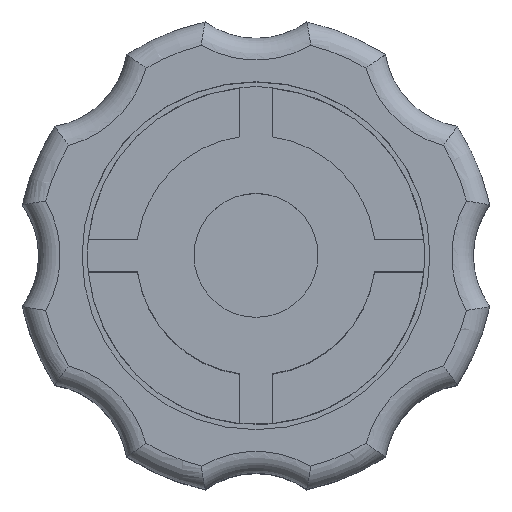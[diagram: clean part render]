
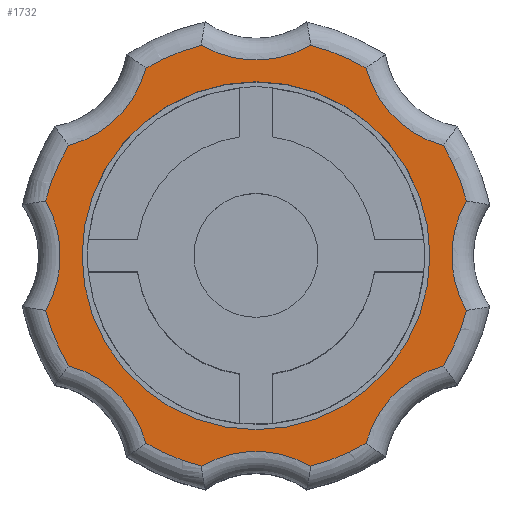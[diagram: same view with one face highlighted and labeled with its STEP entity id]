
A CAD part, top view. The second image highlights one B-rep face of the part: STEP entity #1732.
In plain terms, the highlighted planar face has unit normal (0, 0, 1).
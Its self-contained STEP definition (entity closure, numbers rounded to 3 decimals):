
#41=FACE_BOUND('',#507,.T.);
#62=PLANE('',#1911);
#394=FACE_OUTER_BOUND('',#506,.T.);
#506=EDGE_LOOP('',(#1358,#1359,#1360,#1361,#1362,#1363,#1364,#1365,#1366,
#1367,#1368,#1369,#1370,#1371,#1372,#1373));
#507=EDGE_LOOP('',(#1374));
#661=CIRCLE('',#1864,10.);
#662=CIRCLE('',#1866,5.);
#663=CIRCLE('',#1868,10.);
#664=CIRCLE('',#1870,5.);
#665=CIRCLE('',#1872,10.);
#667=CIRCLE('',#1875,10.);
#669=CIRCLE('',#1878,5.);
#671=CIRCLE('',#1881,10.);
#673=CIRCLE('',#1884,5.);
#675=CIRCLE('',#1887,10.);
#677=CIRCLE('',#1890,5.);
#678=CIRCLE('',#1892,5.);
#680=CIRCLE('',#1895,10.);
#682=CIRCLE('',#1898,5.);
#683=CIRCLE('',#1900,10.);
#684=CIRCLE('',#1902,5.);
#685=CIRCLE('',#1912,8.);
#777=VERTEX_POINT('',#2936);
#778=VERTEX_POINT('',#2951);
#779=VERTEX_POINT('',#2968);
#780=VERTEX_POINT('',#2985);
#781=VERTEX_POINT('',#3002);
#782=VERTEX_POINT('',#3019);
#784=VERTEX_POINT('',#3038);
#785=VERTEX_POINT('',#3053);
#787=VERTEX_POINT('',#3072);
#789=VERTEX_POINT('',#3091);
#791=VERTEX_POINT('',#3110);
#793=VERTEX_POINT('',#3129);
#795=VERTEX_POINT('',#3148);
#797=VERTEX_POINT('',#3169);
#798=VERTEX_POINT('',#3187);
#799=VERTEX_POINT('',#3204);
#800=VERTEX_POINT('',#3238);
#965=EDGE_CURVE('',#777,#778,#661,.T.);
#968=EDGE_CURVE('',#779,#777,#662,.T.);
#970=EDGE_CURVE('',#780,#779,#663,.T.);
#972=EDGE_CURVE('',#781,#780,#664,.T.);
#974=EDGE_CURVE('',#782,#781,#665,.T.);
#977=EDGE_CURVE('',#784,#785,#667,.T.);
#981=EDGE_CURVE('',#787,#784,#669,.T.);
#984=EDGE_CURVE('',#789,#787,#671,.T.);
#987=EDGE_CURVE('',#791,#789,#673,.T.);
#990=EDGE_CURVE('',#793,#791,#675,.T.);
#993=EDGE_CURVE('',#795,#793,#677,.T.);
#994=EDGE_CURVE('',#785,#782,#678,.T.);
#997=EDGE_CURVE('',#797,#795,#680,.T.);
#1000=EDGE_CURVE('',#798,#797,#682,.T.);
#1002=EDGE_CURVE('',#799,#798,#683,.T.);
#1003=EDGE_CURVE('',#778,#799,#684,.T.);
#1011=EDGE_CURVE('',#800,#800,#685,.T.);
#1358=ORIENTED_EDGE('',*,*,#977,.F.);
#1359=ORIENTED_EDGE('',*,*,#981,.F.);
#1360=ORIENTED_EDGE('',*,*,#984,.F.);
#1361=ORIENTED_EDGE('',*,*,#987,.F.);
#1362=ORIENTED_EDGE('',*,*,#990,.F.);
#1363=ORIENTED_EDGE('',*,*,#993,.F.);
#1364=ORIENTED_EDGE('',*,*,#997,.F.);
#1365=ORIENTED_EDGE('',*,*,#1000,.F.);
#1366=ORIENTED_EDGE('',*,*,#1002,.F.);
#1367=ORIENTED_EDGE('',*,*,#1003,.F.);
#1368=ORIENTED_EDGE('',*,*,#965,.F.);
#1369=ORIENTED_EDGE('',*,*,#968,.F.);
#1370=ORIENTED_EDGE('',*,*,#970,.F.);
#1371=ORIENTED_EDGE('',*,*,#972,.F.);
#1372=ORIENTED_EDGE('',*,*,#974,.F.);
#1373=ORIENTED_EDGE('',*,*,#994,.F.);
#1374=ORIENTED_EDGE('',*,*,#1011,.T.);
#1732=ADVANCED_FACE('',(#394,#41),#62,.F.);
#1864=AXIS2_PLACEMENT_3D('',#2952,#2172,#2173);
#1866=AXIS2_PLACEMENT_3D('',#2983,#2176,#2177);
#1868=AXIS2_PLACEMENT_3D('',#3000,#2180,#2181);
#1870=AXIS2_PLACEMENT_3D('',#3017,#2184,#2185);
#1872=AXIS2_PLACEMENT_3D('',#3034,#2188,#2189);
#1875=AXIS2_PLACEMENT_3D('',#3054,#2194,#2195);
#1878=AXIS2_PLACEMENT_3D('',#3087,#2200,#2201);
#1881=AXIS2_PLACEMENT_3D('',#3106,#2206,#2207);
#1884=AXIS2_PLACEMENT_3D('',#3125,#2212,#2213);
#1887=AXIS2_PLACEMENT_3D('',#3144,#2218,#2219);
#1890=AXIS2_PLACEMENT_3D('',#3163,#2224,#2225);
#1892=AXIS2_PLACEMENT_3D('',#3165,#2228,#2229);
#1895=AXIS2_PLACEMENT_3D('',#3184,#2234,#2235);
#1898=AXIS2_PLACEMENT_3D('',#3202,#2240,#2241);
#1900=AXIS2_PLACEMENT_3D('',#3219,#2244,#2245);
#1902=AXIS2_PLACEMENT_3D('',#3221,#2248,#2249);
#1911=AXIS2_PLACEMENT_3D('',#3237,#2273,#2274);
#1912=AXIS2_PLACEMENT_3D('',#3239,#2275,#2276);
#2172=DIRECTION('center_axis',(0.,0.,-1.));
#2173=DIRECTION('ref_axis',(0.383,0.924,0.));
#2176=DIRECTION('center_axis',(0.,0.,1.));
#2177=DIRECTION('ref_axis',(0.,-1.,0.));
#2180=DIRECTION('center_axis',(0.,0.,-1.));
#2181=DIRECTION('ref_axis',(-0.383,0.924,0.));
#2184=DIRECTION('center_axis',(0.,0.,1.));
#2185=DIRECTION('ref_axis',(0.707,-0.707,0.));
#2188=DIRECTION('center_axis',(0.,0.,-1.));
#2189=DIRECTION('ref_axis',(-0.924,0.383,0.));
#2194=DIRECTION('center_axis',(0.,0.,-1.));
#2195=DIRECTION('ref_axis',(-0.924,-0.383,0.));
#2200=DIRECTION('center_axis',(0.,0.,1.));
#2201=DIRECTION('ref_axis',(0.707,0.707,0.));
#2206=DIRECTION('center_axis',(0.,0.,-1.));
#2207=DIRECTION('ref_axis',(-0.383,-0.924,0.));
#2212=DIRECTION('center_axis',(0.,0.,1.));
#2213=DIRECTION('ref_axis',(0.,1.,0.));
#2218=DIRECTION('center_axis',(0.,0.,-1.));
#2219=DIRECTION('ref_axis',(0.383,-0.924,0.));
#2224=DIRECTION('center_axis',(0.,0.,1.));
#2225=DIRECTION('ref_axis',(-0.707,0.707,0.));
#2228=DIRECTION('center_axis',(0.,0.,1.));
#2229=DIRECTION('ref_axis',(1.,0.,0.));
#2234=DIRECTION('center_axis',(0.,0.,-1.));
#2235=DIRECTION('ref_axis',(0.924,-0.383,0.));
#2240=DIRECTION('center_axis',(0.,0.,1.));
#2241=DIRECTION('ref_axis',(-1.,0.,0.));
#2244=DIRECTION('center_axis',(0.,0.,-1.));
#2245=DIRECTION('ref_axis',(0.924,0.383,0.));
#2248=DIRECTION('center_axis',(0.,0.,1.));
#2249=DIRECTION('ref_axis',(-0.707,-0.707,0.));
#2273=DIRECTION('center_axis',(0.,0.,-1.));
#2274=DIRECTION('ref_axis',(-1.,0.,0.));
#2275=DIRECTION('center_axis',(0.,0.,-1.));
#2276=DIRECTION('ref_axis',(-1.,0.,0.));
#2936=CARTESIAN_POINT('',(2.515,9.679,15.));
#2951=CARTESIAN_POINT('',(5.065,8.622,15.));
#2952=CARTESIAN_POINT('Origin',(0.,0.,15.));
#2968=CARTESIAN_POINT('',(-2.515,9.679,15.));
#2983=CARTESIAN_POINT('Origin',(0.,14.,15.));
#2985=CARTESIAN_POINT('',(-5.065,8.622,15.));
#3000=CARTESIAN_POINT('Origin',(0.,0.,15.));
#3002=CARTESIAN_POINT('',(-8.622,5.065,15.));
#3017=CARTESIAN_POINT('Origin',(-9.899,9.899,15.));
#3019=CARTESIAN_POINT('',(-9.679,2.515,15.));
#3034=CARTESIAN_POINT('Origin',(0.,0.,15.));
#3038=CARTESIAN_POINT('',(-8.622,-5.065,15.));
#3053=CARTESIAN_POINT('',(-9.679,-2.515,15.));
#3054=CARTESIAN_POINT('Origin',(0.,0.,15.));
#3072=CARTESIAN_POINT('',(-5.065,-8.622,15.));
#3087=CARTESIAN_POINT('Origin',(-9.899,-9.899,15.));
#3091=CARTESIAN_POINT('',(-2.515,-9.679,15.));
#3106=CARTESIAN_POINT('Origin',(0.,0.,15.));
#3110=CARTESIAN_POINT('',(2.515,-9.679,15.));
#3125=CARTESIAN_POINT('Origin',(0.,-14.,15.));
#3129=CARTESIAN_POINT('',(5.065,-8.622,15.));
#3144=CARTESIAN_POINT('Origin',(0.,0.,15.));
#3148=CARTESIAN_POINT('',(8.622,-5.065,15.));
#3163=CARTESIAN_POINT('Origin',(9.899,-9.899,15.));
#3165=CARTESIAN_POINT('Origin',(-14.,0.,15.));
#3169=CARTESIAN_POINT('',(9.679,-2.515,15.));
#3184=CARTESIAN_POINT('Origin',(0.,0.,15.));
#3187=CARTESIAN_POINT('',(9.679,2.515,15.));
#3202=CARTESIAN_POINT('Origin',(14.,0.,15.));
#3204=CARTESIAN_POINT('',(8.622,5.065,15.));
#3219=CARTESIAN_POINT('Origin',(0.,0.,15.));
#3221=CARTESIAN_POINT('Origin',(9.899,9.899,15.));
#3237=CARTESIAN_POINT('Origin',(0.,0.,15.));
#3238=CARTESIAN_POINT('',(8.,0.,15.));
#3239=CARTESIAN_POINT('Origin',(0.,0.,15.));
